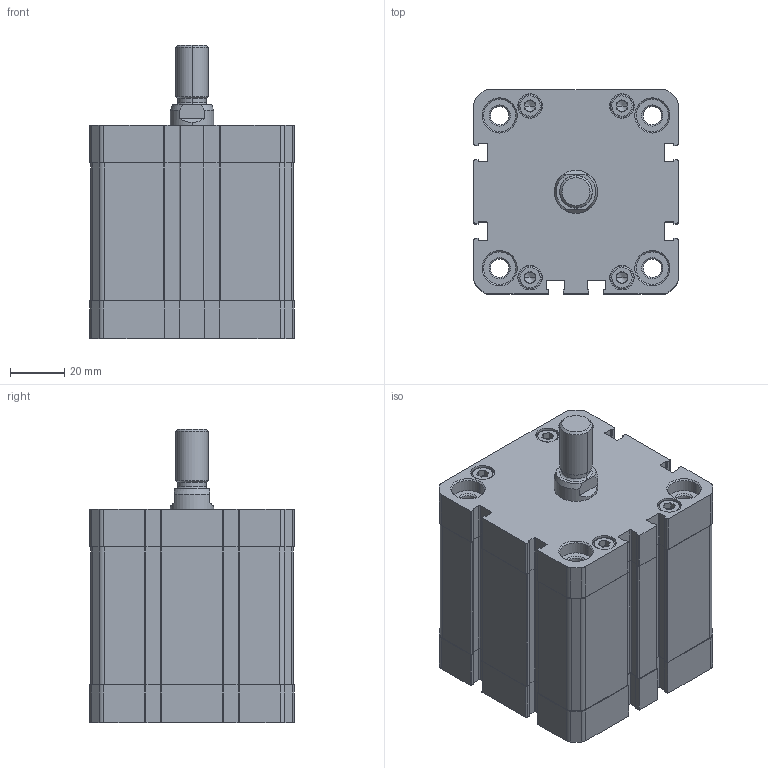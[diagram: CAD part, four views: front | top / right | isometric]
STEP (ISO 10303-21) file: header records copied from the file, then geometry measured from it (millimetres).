
FILE_DESCRIPTION (( 'STEP AP214' ), '1' );
FILE_NAME ('WPCC-063-0030-ML (3D).STEP', '2020-06-12T13:28:42', ( '' ), ( '' ), 'SwSTEP 2.0', 'SolidWorks 2016', '' );
FILE_SCHEMA (( 'AUTOMOTIVE_DESIGN' ));
Length unit declared in the file: millimetre
Products named in the file (3): Assem15^WPCC-063-0030-ML (3D); Group2^WPCC-063-0030-ML (3D); WPCC-063-0030-ML (3D)
Assembly tree (2 placements, depth 2):
  WPCC-063-0030-ML (3D)
    Group2^WPCC-063-0030-ML (3D)
    Assem15^WPCC-063-0030-ML (3D)
Bounding box: 75.5 x 75.5 x 108.53 mm (x, y, z)
Volume: 320297.2 mm3; surface area: 93726.1 mm2
Topology: 12 solids, 12 shells, 919 faces, 2402 edges, 1552 vertices
Faces by surface type: plane 494, cylinder 246, bspline 120, cone 59
Entity records: 35402 total; most frequent: CARTESIAN_POINT 11792, ORIENTED_EDGE 4772, DIRECTION 4364, EDGE_CURVE 2386, VECTOR 1556, LINE 1556, VERTEX_POINT 1552, AXIS2_PLACEMENT_3D 1404
